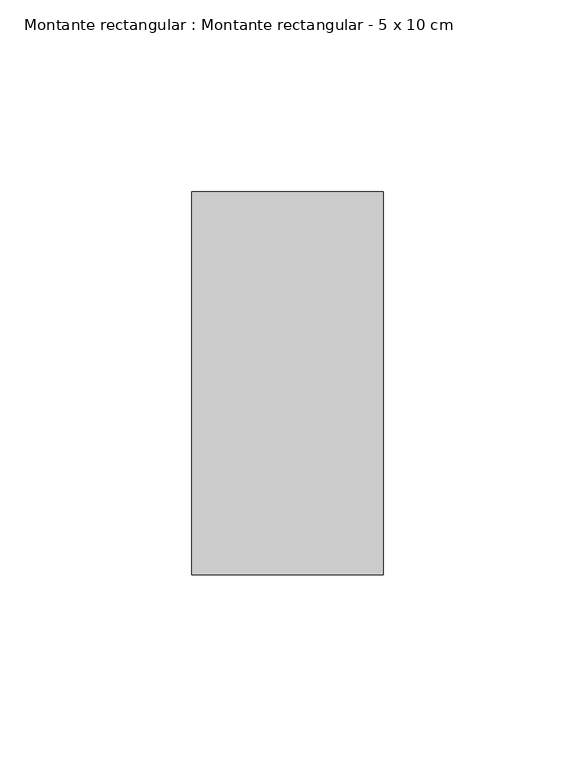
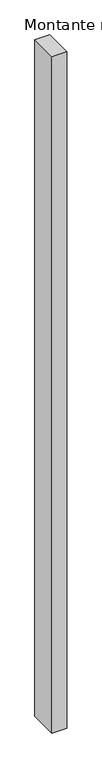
"""IFC4 building model written with IfcOpenShell, lengths in millimetres: member geometry, Montante rectangular : Montante rectangular - 5 x 10 cm."""

from ifc_helpers import new_model, si_unit, frame, origin, place, context, project, spatial, polyline, outline, extrude, source, transform, mapped, element, save


def montante_rectangular_montante_rectangular_5_x_10_cm_8e00f2ae(model_context):
    return source(origin(), model_context, "Body", "SweptSolid", [
        extrude(outline(polyline([(25.0, 50.0), (25.0, -50.0), (-25.0, -50.0), (-25.0, 50.0), (25.0, 50.0)])), frame((0.0, 0.0, -2419.5344491), z_axis=(0.0, 0.0, 1.0), x_axis=(1.0, 0.0, 0.0)), (0.0, 0.0, 1.0), 2419.5344491),
    ])


if __name__ == "__main__":
    model = new_model("IFC4")
    model_context = context("Model", 3, world=origin())
    ifc_project = project(units=[si_unit("LENGTHUNIT", "METRE", prefix="MILLI")], contexts=[model_context])
    site = spatial("IfcSite", under=ifc_project)
    building = spatial("IfcBuilding", under=site)
    placement = place(None, origin())
    montante_rectangular_montante_rectangular_5_x_10_cm_shape = montante_rectangular_montante_rectangular_5_x_10_cm_8e00f2ae(model_context)
    element("IfcMember", 1, ObjectType="Montante rectangular : Montante rectangular - 5 x 10 cm", at=placement, inside=building, context=model_context, shape_type="MappedRepresentation", body=[
        mapped(montante_rectangular_montante_rectangular_5_x_10_cm_shape, transform((0.0, 0.0, 0.0), x_axis=(1.0, 0.0, 0.0), y_axis=(0.0, 1.0, 0.0), z_axis=(0.0, 0.0, 1.0))),
    ])
    save(model, "model.ifc")
